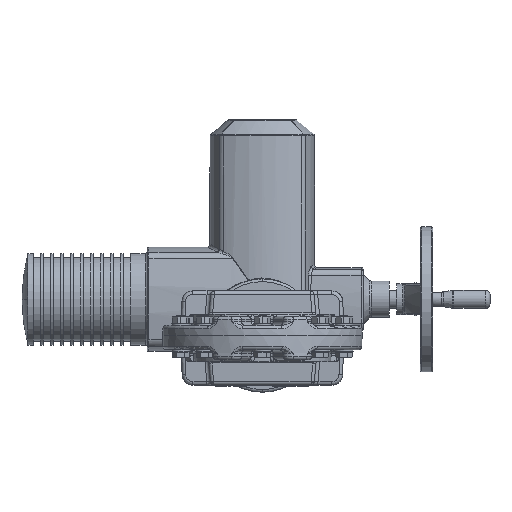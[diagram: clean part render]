
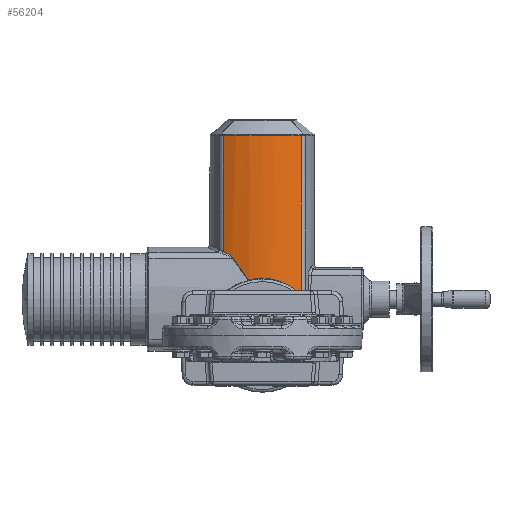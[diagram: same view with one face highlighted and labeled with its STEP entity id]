
A CAD part, front view. The second image highlights one B-rep face of the part: STEP entity #56204.
In plain terms, the highlighted cylindrical face has radius 100 mm (diameter 200 mm), a partial arc.
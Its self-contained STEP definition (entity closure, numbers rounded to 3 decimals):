
#1422 = CARTESIAN_POINT ( 'NONE',  ( -42.042, 439.26, 92.005 ) ) ;
#3177 = CARTESIAN_POINT ( 'NONE',  ( -10.443, 430.52, 62.174 ) ) ;
#3642 = CARTESIAN_POINT ( 'NONE',  ( 20.562, 432.131, 58.699 ) ) ;
#3802 = CARTESIAN_POINT ( 'NONE',  ( 43.041, 439.737, 44.194 ) ) ;
#7844 = VERTEX_POINT ( 'NONE', #32226 ) ;
#10381 = DIRECTION ( 'NONE',  ( 0., 0., -1. ) ) ;
#11501 = DIRECTION ( 'NONE',  ( 0., 0., -1. ) ) ;
#12614 = CARTESIAN_POINT ( 'NONE',  ( -39.094, 437.952, 90.65 ) ) ;
#13141 = EDGE_CURVE ( 'NONE', #7844, #59653, #101802, .T. ) ;
#13413 = DIRECTION ( 'NONE',  ( 0., 0., -1. ) ) ;
#13908 = CARTESIAN_POINT ( 'NONE',  ( -14.967, 431.126, 60.881 ) ) ;
#14390 = CARTESIAN_POINT ( 'NONE',  ( -5.794, 430.161, 62.927 ) ) ;
#14553 = CARTESIAN_POINT ( 'NONE',  ( 38.283, 437.617, 46.974 ) ) ;
#14863 = CARTESIAN_POINT ( 'NONE',  ( 23.143, 432.713, 57.404 ) ) ;
#15540 = VERTEX_POINT ( 'NONE', #97372 ) ;
#16506 = CARTESIAN_POINT ( 'NONE',  ( -14.967, 431.126, 60.881 ) ) ;
#17035 = B_SPLINE_CURVE_WITH_KNOTS ( 'NONE', 3,
 ( #68079, #1422, #79257, #12614, #90403, #23786, #101639, #34974, #112801, #46164, #123956, #57378 ),
 .UNSPECIFIED., .F., .F.,
 ( 4, 2, 2, 2, 2, 4 ),
 ( 0., 0.003, 0.007, 0.01, 0.012, 0.014 ),
 .UNSPECIFIED. ) ;
#17116 = CARTESIAN_POINT ( 'NONE',  ( 0., 530., 237.75 ) ) ;
#21608 = EDGE_CURVE ( 'NONE', #53976, #115934, #69583, .T. ) ;
#22844 = EDGE_LOOP ( 'NONE', ( #64535, #112218, #119824, #55618, #101982, #67325, #117550, #50344 ) ) ;
#23786 = CARTESIAN_POINT ( 'NONE',  ( -36.228, 436.787, 89.011 ) ) ;
#25533 = CARTESIAN_POINT ( 'NONE',  ( -2.243, 430.018, 63.226 ) ) ;
#25688 = CARTESIAN_POINT ( 'NONE',  ( 37.791, 437.416, 47.097 ) ) ;
#25982 = CARTESIAN_POINT ( 'NONE',  ( 24.662, 433.087, 56.561 ) ) ;
#32226 = CARTESIAN_POINT ( 'NONE',  ( 36.396, 436.858, 47.439 ) ) ;
#32932 = CYLINDRICAL_SURFACE ( 'NONE', #41436, 100. ) ;
#34974 = CARTESIAN_POINT ( 'NONE',  ( -33.985, 435.951, 87.329 ) ) ;
#36715 = CARTESIAN_POINT ( 'NONE',  ( 3.673, 430.04, 63.181 ) ) ;
#36860 = CARTESIAN_POINT ( 'NONE',  ( -20.733, 431.999, 69.042 ) ) ;
#37201 = CARTESIAN_POINT ( 'NONE',  ( 27.641, 433.874, 54.766 ) ) ;
#40594 = EDGE_CURVE ( 'NONE', #59653, #15540, #63942, .T. ) ;
#41436 = AXIS2_PLACEMENT_3D ( 'NONE', #17116, #51648, #52134 ) ;
#42585 = CARTESIAN_POINT ( 'NONE',  ( 37.791, 437.416, 47.097 ) ) ;
#44136 = VERTEX_POINT ( 'NONE', #16506 ) ;
#46164 = CARTESIAN_POINT ( 'NONE',  ( -32.772, 435.521, 86.153 ) ) ;
#46684 = CARTESIAN_POINT ( 'NONE',  ( 43.041, 439.737, 220.035 ) ) ;
#47936 = CARTESIAN_POINT ( 'NONE',  ( 8.354, 430.343, 62.546 ) ) ;
#48103 = CARTESIAN_POINT ( 'NONE',  ( 38.764, 437.818, 46.82 ) ) ;
#48397 = CARTESIAN_POINT ( 'NONE',  ( 33.093, 435.616, 50.604 ) ) ;
#50344 = ORIENTED_EDGE ( 'NONE', *, *, #21608, .T. ) ;
#51648 = DIRECTION ( 'NONE',  ( 0., 0., -1. ) ) ;
#52134 = DIRECTION ( 'NONE',  ( -1., 0., 0. ) ) ;
#53976 = VERTEX_POINT ( 'NONE', #46684 ) ;
#55618 = ORIENTED_EDGE ( 'NONE', *, *, #115182, .T. ) ;
#56204 = ADVANCED_FACE ( 'NONE', ( #132176 ), #32932, .T. ) ;
#57378 = CARTESIAN_POINT ( 'NONE',  ( -32.064, 435.28, 85.242 ) ) ;
#57689 = CARTESIAN_POINT ( 'NONE',  ( 43.041, 439.737, 237.75 ) ) ;
#59137 = CARTESIAN_POINT ( 'NONE',  ( 11.825, 430.695, 61.802 ) ) ;
#59286 = CARTESIAN_POINT ( 'NONE',  ( 40.164, 438.419, 46.232 ) ) ;
#59632 = CARTESIAN_POINT ( 'NONE',  ( 36.396, 436.858, 47.439 ) ) ;
#59653 = VERTEX_POINT ( 'NONE', #42585 ) ;
#61502 = VECTOR ( 'NONE', #13413, 1000. ) ;
#63942 = B_SPLINE_CURVE_WITH_KNOTS ( 'NONE', 3,
 ( #25688, #14553, #48103, #125881, #59286, #137023, #70516, #3802 ),
 .UNSPECIFIED., .F., .F.,
 ( 4, 2, 2, 4 ),
 ( 0., 0.002, 0.003, 0.007 ),
 .UNSPECIFIED. ) ;
#64535 = ORIENTED_EDGE ( 'NONE', *, *, #86869, .T. ) ;
#64951 = CARTESIAN_POINT ( 'NONE',  ( 37.791, 437.416, 47.097 ) ) ;
#65680 = CARTESIAN_POINT ( 'NONE',  ( -43.041, 439.737, 220.035 ) ) ;
#65842 = CARTESIAN_POINT ( 'NONE',  ( -43.041, 439.737, 237.75 ) ) ;
#67325 = ORIENTED_EDGE ( 'NONE', *, *, #40594, .T. ) ;
#68079 = CARTESIAN_POINT ( 'NONE',  ( -43.041, 439.737, 92.391 ) ) ;
#69583 = CIRCLE ( 'NONE', #86577, 100. ) ;
#70348 = CARTESIAN_POINT ( 'NONE',  ( 17.386, 431.499, 60.082 ) ) ;
#70516 = CARTESIAN_POINT ( 'NONE',  ( 42.296, 439.381, 44.907 ) ) ;
#75147 = LINE ( 'NONE', #65842, #130794 ) ;
#78120 = CARTESIAN_POINT ( 'NONE',  ( 0., 530., 220.035 ) ) ;
#79257 = CARTESIAN_POINT ( 'NONE',  ( -41.052, 438.808, 91.582 ) ) ;
#80684 = CARTESIAN_POINT ( 'NONE',  ( -32.064, 435.28, 85.242 ) ) ;
#81000 = CARTESIAN_POINT ( 'NONE',  ( -6.964, 430.236, 62.77 ) ) ;
#81462 = CARTESIAN_POINT ( 'NONE',  ( 21.604, 432.356, 58.202 ) ) ;
#86214 = VERTEX_POINT ( 'NONE', #131625 ) ;
#86442 = EDGE_CURVE ( 'NONE', #53976, #15540, #94575, .T. ) ;
#86577 = AXIS2_PLACEMENT_3D ( 'NONE', #78120, #11501, #89285 ) ;
#86869 = EDGE_CURVE ( 'NONE', #115934, #117604, #75147, .T. ) ;
#89285 = DIRECTION ( 'NONE',  ( 1., 0., 0. ) ) ;
#90403 = CARTESIAN_POINT ( 'NONE',  ( -38.126, 437.548, 90.142 ) ) ;
#92163 = CARTESIAN_POINT ( 'NONE',  ( -3.436, 430.052, 63.155 ) ) ;
#92297 = CARTESIAN_POINT ( 'NONE',  ( -26.44, 433.376, 77.158 ) ) ;
#92654 = CARTESIAN_POINT ( 'NONE',  ( 23.652, 432.836, 57.129 ) ) ;
#94575 = LINE ( 'NONE', #57689, #61502 ) ;
#97372 = CARTESIAN_POINT ( 'NONE',  ( 43.041, 439.737, 44.194 ) ) ;
#101639 = CARTESIAN_POINT ( 'NONE',  ( -35.292, 436.43, 88.385 ) ) ;
#101802 = B_SPLINE_CURVE_WITH_KNOTS ( 'NONE', 3,
 ( #109172, #142181, #131517, #64951 ),
 .UNSPECIFIED., .F., .F.,
 ( 4, 4 ),
 ( 0.008, 0.009 ),
 .UNSPECIFIED. ) ;
#101982 = ORIENTED_EDGE ( 'NONE', *, *, #13141, .T. ) ;
#102885 = CARTESIAN_POINT ( 'NONE',  ( -12.724, 430.787, 61.609 ) ) ;
#103376 = CARTESIAN_POINT ( 'NONE',  ( 1.316, 429.981, 63.304 ) ) ;
#103850 = CARTESIAN_POINT ( 'NONE',  ( 25.164, 433.217, 56.268 ) ) ;
#105156 = CARTESIAN_POINT ( 'NONE',  ( -43.041, 439.737, 92.391 ) ) ;
#109172 = CARTESIAN_POINT ( 'NONE',  ( 36.396, 436.858, 47.439 ) ) ;
#109177 = EDGE_CURVE ( 'NONE', #86214, #44136, #112815, .T. ) ;
#112218 = ORIENTED_EDGE ( 'NONE', *, *, #136618, .T. ) ;
#112801 = CARTESIAN_POINT ( 'NONE',  ( -33.565, 435.8, 86.957 ) ) ;
#112815 = B_SPLINE_CURVE_WITH_KNOTS ( 'NONE', 3,
 ( #80684, #92297, #36860, #114691 ),
 .UNSPECIFIED., .F., .F.,
 ( 4, 4 ),
 ( 0., 0.03 ),
 .UNSPECIFIED. ) ;
#114561 = CARTESIAN_POINT ( 'NONE',  ( 7.186, 430.252, 62.737 ) ) ;
#114691 = CARTESIAN_POINT ( 'NONE',  ( -14.967, 431.126, 60.881 ) ) ;
#115029 = CARTESIAN_POINT ( 'NONE',  ( 29.519, 434.438, 53.45 ) ) ;
#115182 = EDGE_CURVE ( 'NONE', #44136, #7844, #121491, .T. ) ;
#115934 = VERTEX_POINT ( 'NONE', #65680 ) ;
#117550 = ORIENTED_EDGE ( 'NONE', *, *, #86442, .F. ) ;
#117604 = VERTEX_POINT ( 'NONE', #105156 ) ;
#119824 = ORIENTED_EDGE ( 'NONE', *, *, #109177, .T. ) ;
#121491 = B_SPLINE_CURVE_WITH_KNOTS ( 'NONE', 3,
 ( #13908, #102885, #3177, #81000, #14390, #92163, #25533, #103376, #36715, #114561, #47936, #125704, #59137, #136883, #70348, #3642, #81462, #14863, #92654, #25982, #103850, #37201, #115029, #48397, #126190, #59632 ),
 .UNSPECIFIED., .F., .F.,
 ( 4, 2, 2, 2, 2, 2, 2, 2, 2, 2, 2, 2, 4 ),
 ( 0., 0.007, 0.011, 0.014, 0.021, 0.025, 0.028, 0.035, 0.039, 0.041, 0.042, 0.05, 0.057 ),
 .UNSPECIFIED. ) ;
#123956 = CARTESIAN_POINT ( 'NONE',  ( -32.398, 435.393, 85.723 ) ) ;
#125704 = CARTESIAN_POINT ( 'NONE',  ( 10.68, 430.565, 62.077 ) ) ;
#125881 = CARTESIAN_POINT ( 'NONE',  ( 39.706, 438.219, 46.448 ) ) ;
#126190 = CARTESIAN_POINT ( 'NONE',  ( 34.788, 436.23, 49.074 ) ) ;
#130794 = VECTOR ( 'NONE', #10381, 1000. ) ;
#131517 = CARTESIAN_POINT ( 'NONE',  ( 37.328, 437.227, 47.213 ) ) ;
#131625 = CARTESIAN_POINT ( 'NONE',  ( -32.064, 435.28, 85.242 ) ) ;
#132176 = FACE_OUTER_BOUND ( 'NONE', #22844, .T. ) ;
#136618 = EDGE_CURVE ( 'NONE', #117604, #86214, #17035, .T. ) ;
#136883 = CARTESIAN_POINT ( 'NONE',  ( 15.204, 431.137, 60.862 ) ) ;
#137023 = CARTESIAN_POINT ( 'NONE',  ( 41.482, 439.005, 45.502 ) ) ;
#142181 = CARTESIAN_POINT ( 'NONE',  ( 36.862, 437.041, 47.327 ) ) ;
